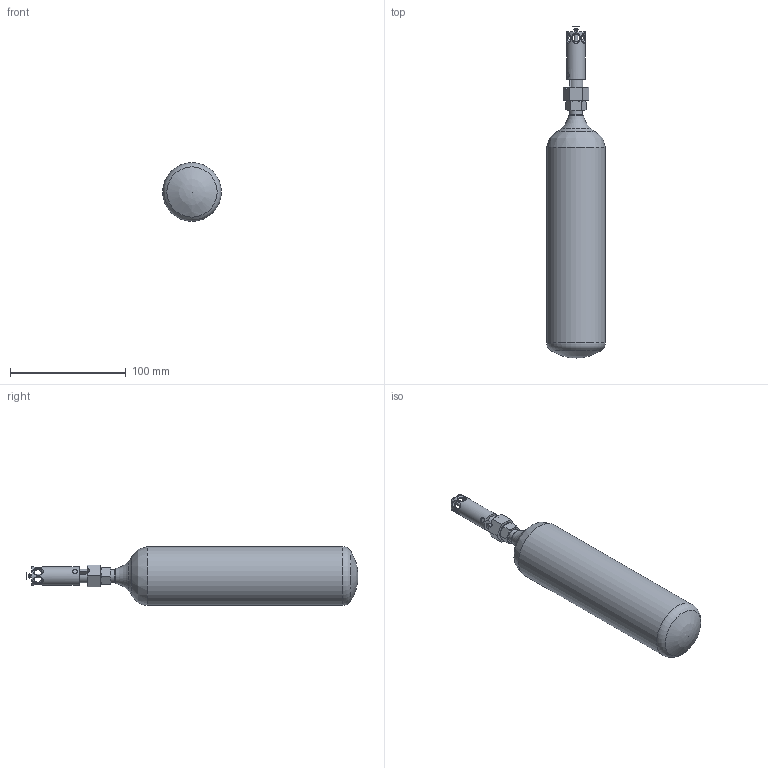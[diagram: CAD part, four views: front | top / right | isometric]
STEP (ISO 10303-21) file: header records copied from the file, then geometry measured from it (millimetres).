
FILE_DESCRIPTION(/* description */ (''),/* implementation_level */ '2;1');
FILE_NAME(/* name */ '40-056-20-68182-13 - AMFE - cylinder size 3.stp',/* time_stamp */ '2025-03-26T16:30:52+01:00',/* author */ ('ASc'),/* organization */ (''),/* preprocessor_version */ 'ST-DEVELOPER v19.2',/* originating_system */ 'Autodesk Inventor 2023',/* authorisation */ '');
FILE_SCHEMA (('AUTOMOTIVE_DESIGN { 1 0 10303 214 3 1 1 }'));
Length unit declared in the file: millimetre
Products named in the file (1): 40-056-20-68182-13_Vereinfachen_1
Bounding box: 50.8 x 287.4 x 50.8 mm (x, y, z)
Volume: 400830.2 mm3; surface area: 39048.7 mm2
Topology: 1 solids, 1 shells, 79 faces, 244 edges, 162 vertices
Faces by surface type: plane 29, cone 25, cylinder 17, torus 4, bspline 2, sphere 2
Full cylindrical faces by diameter (mm): 2.9 x1, 3 x1, 6.5 x6, 11 x1, 12 x1, 12.5 x1, 15 x1, 16 x1, 50.8 x1
Entity records: 3407 total; most frequent: CARTESIAN_POINT 1104, ORIENTED_EDGE 480, DIRECTION 425, EDGE_CURVE 240, AXIS2_PLACEMENT_3D 170, VERTEX_POINT 162, EDGE_LOOP 96, LINE 85
